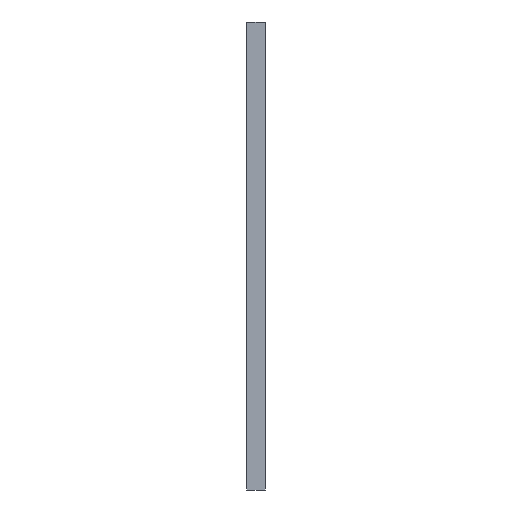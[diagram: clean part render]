
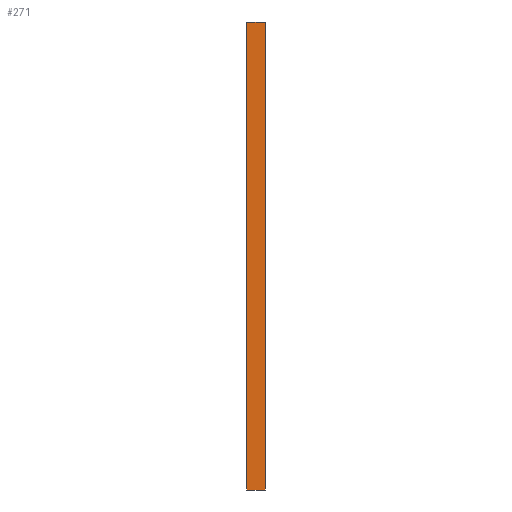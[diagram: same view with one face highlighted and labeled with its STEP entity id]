
A CAD part, left-side view. The second image highlights one B-rep face of the part: STEP entity #271.
In plain terms, the highlighted planar face has unit normal (-1, 0, 0).
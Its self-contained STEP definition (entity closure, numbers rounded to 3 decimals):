
#8 = EDGE_CURVE ( 'NONE', #234, #121, #184, .T. ) ;
#10 = LINE ( 'NONE', #789, #22 ) ;
#22 = VECTOR ( 'NONE', #777, 1000. ) ;
#118 = CARTESIAN_POINT ( 'NONE',  ( 0., -0.6, -15. ) ) ;
#121 = VERTEX_POINT ( 'NONE', #226 ) ;
#126 = EDGE_CURVE ( 'NONE', #179, #234, #10, .T. ) ;
#145 = VECTOR ( 'NONE', #461, 1000. ) ;
#168 = PLANE ( 'NONE',  #722 ) ;
#178 = CARTESIAN_POINT ( 'NONE',  ( 0., -0.6, 15. ) ) ;
#179 = VERTEX_POINT ( 'NONE', #515 ) ;
#184 = LINE ( 'NONE', #398, #145 ) ;
#213 = EDGE_CURVE ( 'NONE', #527, #179, #646, .T. ) ;
#224 = ORIENTED_EDGE ( 'NONE', *, *, #126, .F. ) ;
#226 = CARTESIAN_POINT ( 'NONE',  ( 0., 0.6, -15. ) ) ;
#234 = VERTEX_POINT ( 'NONE', #118 ) ;
#271 = ADVANCED_FACE ( 'NONE', ( #550 ), #168, .T. ) ;
#278 = ORIENTED_EDGE ( 'NONE', *, *, #213, .F. ) ;
#384 = ORIENTED_EDGE ( 'NONE', *, *, #416, .F. ) ;
#398 = CARTESIAN_POINT ( 'NONE',  ( 0., -0.6, -15. ) ) ;
#400 = DIRECTION ( 'NONE',  ( 0., -1., 0. ) ) ;
#402 = EDGE_LOOP ( 'NONE', ( #540, #224, #278, #384 ) ) ;
#416 = EDGE_CURVE ( 'NONE', #121, #527, #623, .T. ) ;
#417 = CARTESIAN_POINT ( 'NONE',  ( 0., 0.6, 15. ) ) ;
#461 = DIRECTION ( 'NONE',  ( 0., 1., 0. ) ) ;
#505 = VECTOR ( 'NONE', #678, 1000. ) ;
#515 = CARTESIAN_POINT ( 'NONE',  ( 0., -0.6, 15. ) ) ;
#527 = VERTEX_POINT ( 'NONE', #417 ) ;
#540 = ORIENTED_EDGE ( 'NONE', *, *, #8, .F. ) ;
#550 = FACE_OUTER_BOUND ( 'NONE', #402, .T. ) ;
#551 = DIRECTION ( 'NONE',  ( -1., 0., 0. ) ) ;
#605 = DIRECTION ( 'NONE',  ( 0., 0., 1. ) ) ;
#623 = LINE ( 'NONE', #654, #505 ) ;
#645 = VECTOR ( 'NONE', #400, 1000. ) ;
#646 = LINE ( 'NONE', #178, #645 ) ;
#654 = CARTESIAN_POINT ( 'NONE',  ( 0., 0.6, 15. ) ) ;
#674 = CARTESIAN_POINT ( 'NONE',  ( 0., 0.6, -15. ) ) ;
#678 = DIRECTION ( 'NONE',  ( 0., 0., 1. ) ) ;
#722 = AXIS2_PLACEMENT_3D ( 'NONE', #674, #551, #605 ) ;
#777 = DIRECTION ( 'NONE',  ( 0., 0., -1. ) ) ;
#789 = CARTESIAN_POINT ( 'NONE',  ( 0., -0.6, 15. ) ) ;
